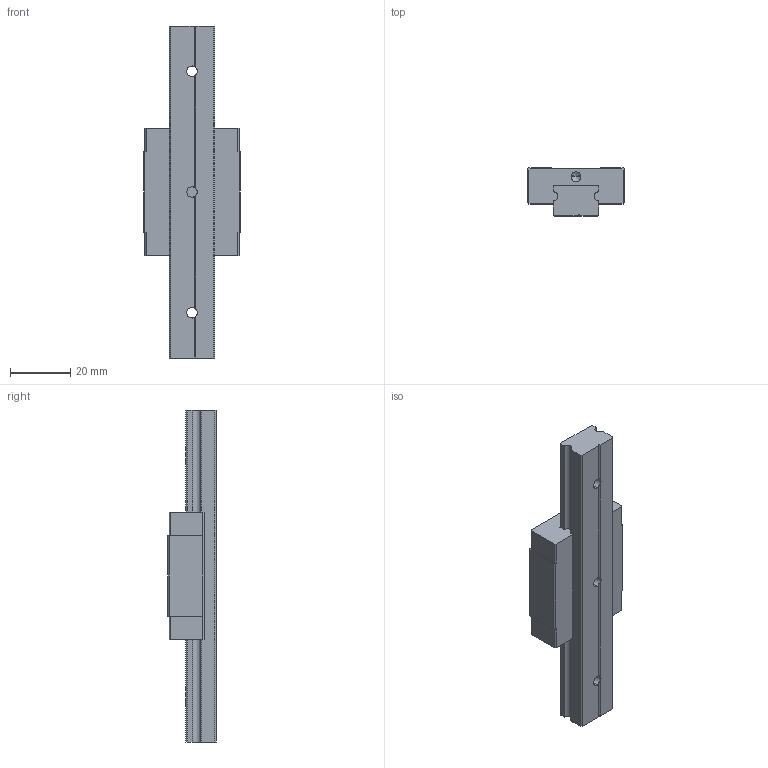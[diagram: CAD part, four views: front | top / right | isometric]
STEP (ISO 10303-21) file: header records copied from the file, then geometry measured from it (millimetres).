
FILE_DESCRIPTION (( 'STEP AP214' ), '1' );
FILE_NAME ('7.1059 Lineaarikelkka MTN15C.STEP', '2026-03-13T11:55:14', ( '' ), ( '' ), 'SwSTEP 2.0', 'SolidWorks 2025', '' );
FILE_SCHEMA (( 'AUTOMOTIVE_DESIGN' ));
Length unit declared in the file: millimetre
Products named in the file (1): 7.1059 Lineaarikelkka MTN15C
Bounding box: 32 x 16 x 110 mm (x, y, z)
Volume: 27227.6 mm3; surface area: 11595.6 mm2
Topology: 2 solids, 2 shells, 210 faces, 570 edges, 370 vertices
Faces by surface type: plane 131, cylinder 36, bspline 31, cone 12
Entity records: 10992 total; most frequent: CARTESIAN_POINT 3560, ORIENTED_EDGE 1116, DIRECTION 922, EDGE_CURVE 558, LINE 418, VECTOR 418, VERTEX_POINT 370, AXIS2_PLACEMENT_3D 252
